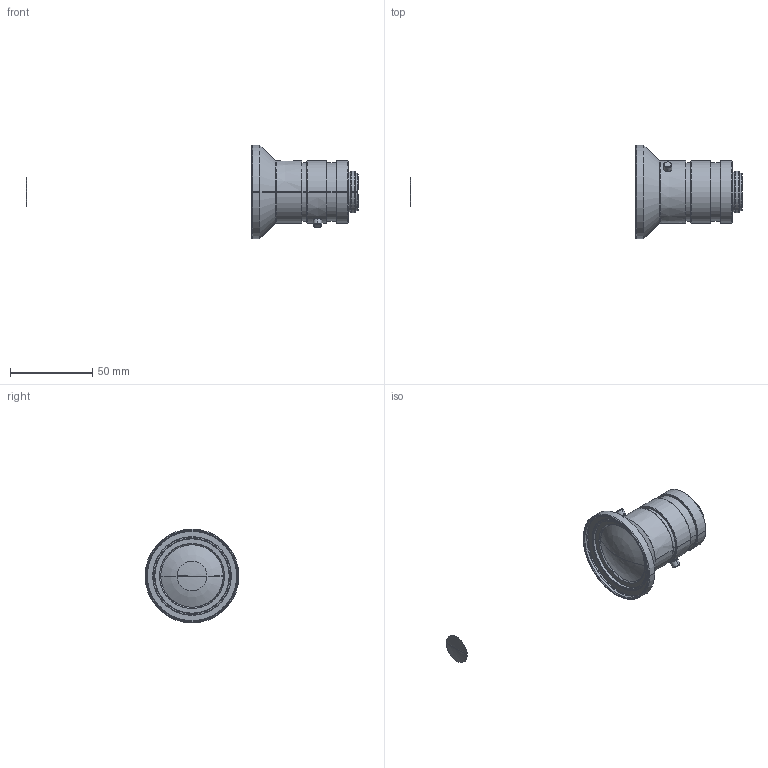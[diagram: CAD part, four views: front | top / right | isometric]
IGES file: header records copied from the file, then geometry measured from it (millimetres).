
Start section: SolidWorks IGES file using analytic representation for surfaces
Global section: file name: \\192.168.1.203\Development\06 俠俠俿倁儗儞僘\11 VS-H1\VS-0814H1\3D\VS-0814H1.IGS; native system: SolidWorks 2012; preprocessor: SolidWorks 2012; author: Tsuji_vst; date: 131203.112810; units: millimetre
Bounding box: 201.79 x 57 x 57 mm (x, y, z)
Surface area: 14225.9 mm2 (no closed solid volume)
Topology: 0 solids, 0 shells, 110 faces, 2252 edges, 2250 vertices
Faces by surface type: revolution 92, bspline 18
